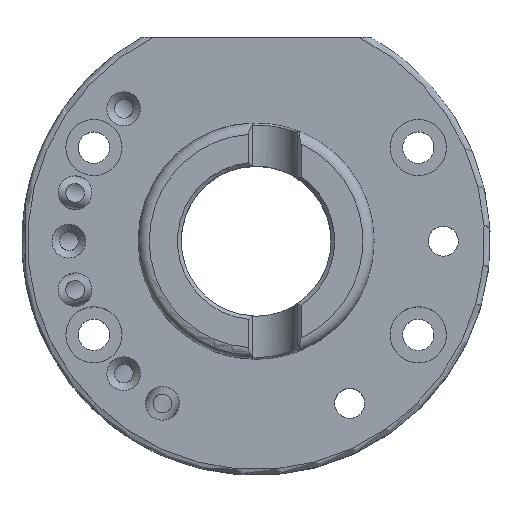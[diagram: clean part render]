
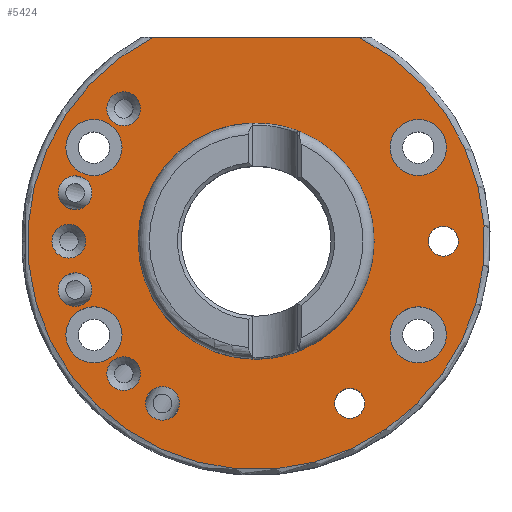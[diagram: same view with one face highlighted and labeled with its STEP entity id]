
A CAD part, top view. The second image highlights one B-rep face of the part: STEP entity #5424.
In plain terms, the highlighted planar face has unit normal (0, 0, 1).
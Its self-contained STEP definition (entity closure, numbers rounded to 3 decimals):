
#124=CIRCLE('',#5625,4.5);
#130=CIRCLE('',#5638,4.5);
#132=CIRCLE('',#5642,4.5);
#145=CIRCLE('',#5668,4.5);
#147=CIRCLE('',#5672,4.5);
#157=CIRCLE('',#5694,4.5);
#160=CIRCLE('',#5702,4.);
#162=CIRCLE('',#5705,4.);
#166=CIRCLE('',#5711,7.5);
#170=CIRCLE('',#5718,7.5);
#174=CIRCLE('',#5725,7.5);
#178=CIRCLE('',#5732,7.5);
#180=CIRCLE('',#5737,61.);
#181=CIRCLE('',#5738,31.5);
#238=FACE_BOUND('',#949,.T.);
#239=FACE_BOUND('',#950,.T.);
#240=FACE_BOUND('',#951,.T.);
#241=FACE_BOUND('',#952,.T.);
#242=FACE_BOUND('',#953,.T.);
#243=FACE_BOUND('',#954,.T.);
#244=FACE_BOUND('',#955,.T.);
#245=FACE_BOUND('',#956,.T.);
#246=FACE_BOUND('',#957,.T.);
#247=FACE_BOUND('',#958,.T.);
#248=FACE_BOUND('',#959,.T.);
#249=FACE_BOUND('',#960,.T.);
#250=FACE_BOUND('',#961,.T.);
#616=FACE_OUTER_BOUND('',#948,.T.);
#948=EDGE_LOOP('',(#4767,#4768));
#949=EDGE_LOOP('',(#4769));
#950=EDGE_LOOP('',(#4770));
#951=EDGE_LOOP('',(#4771));
#952=EDGE_LOOP('',(#4772));
#953=EDGE_LOOP('',(#4773));
#954=EDGE_LOOP('',(#4774));
#955=EDGE_LOOP('',(#4775));
#956=EDGE_LOOP('',(#4776));
#957=EDGE_LOOP('',(#4777));
#958=EDGE_LOOP('',(#4778));
#959=EDGE_LOOP('',(#4779));
#960=EDGE_LOOP('',(#4780));
#961=EDGE_LOOP('',(#4781));
#1640=LINE('',#12027,#2065);
#2065=VECTOR('',#6727,10.);
#2471=VERTEX_POINT('',#10380);
#2492=VERTEX_POINT('',#10945);
#2496=VERTEX_POINT('',#10991);
#2518=VERTEX_POINT('',#11360);
#2522=VERTEX_POINT('',#11406);
#2542=VERTEX_POINT('',#11868);
#2548=VERTEX_POINT('',#11922);
#2550=VERTEX_POINT('',#11928);
#2554=VERTEX_POINT('',#11939);
#2558=VERTEX_POINT('',#11952);
#2562=VERTEX_POINT('',#11965);
#2566=VERTEX_POINT('',#11978);
#2570=VERTEX_POINT('',#12013);
#2571=VERTEX_POINT('',#12026);
#2572=VERTEX_POINT('',#12042);
#3170=EDGE_CURVE('',#2471,#2471,#124,.T.);
#3199=EDGE_CURVE('',#2492,#2492,#130,.T.);
#3205=EDGE_CURVE('',#2496,#2496,#132,.T.);
#3239=EDGE_CURVE('',#2518,#2518,#145,.T.);
#3245=EDGE_CURVE('',#2522,#2522,#147,.T.);
#3275=EDGE_CURVE('',#2542,#2542,#157,.T.);
#3284=EDGE_CURVE('',#2548,#2548,#160,.T.);
#3287=EDGE_CURVE('',#2550,#2550,#162,.T.);
#3292=EDGE_CURVE('',#2554,#2554,#166,.T.);
#3298=EDGE_CURVE('',#2558,#2558,#170,.T.);
#3304=EDGE_CURVE('',#2562,#2562,#174,.T.);
#3310=EDGE_CURVE('',#2566,#2566,#178,.T.);
#3318=EDGE_CURVE('',#2571,#2570,#1640,.T.);
#3320=EDGE_CURVE('',#2571,#2570,#180,.T.);
#3321=EDGE_CURVE('',#2572,#2572,#181,.T.);
#4767=ORIENTED_EDGE('',*,*,#3318,.T.);
#4768=ORIENTED_EDGE('',*,*,#3320,.F.);
#4769=ORIENTED_EDGE('',*,*,#3170,.T.);
#4770=ORIENTED_EDGE('',*,*,#3199,.T.);
#4771=ORIENTED_EDGE('',*,*,#3205,.T.);
#4772=ORIENTED_EDGE('',*,*,#3239,.T.);
#4773=ORIENTED_EDGE('',*,*,#3245,.T.);
#4774=ORIENTED_EDGE('',*,*,#3275,.T.);
#4775=ORIENTED_EDGE('',*,*,#3284,.T.);
#4776=ORIENTED_EDGE('',*,*,#3287,.T.);
#4777=ORIENTED_EDGE('',*,*,#3292,.T.);
#4778=ORIENTED_EDGE('',*,*,#3298,.T.);
#4779=ORIENTED_EDGE('',*,*,#3304,.T.);
#4780=ORIENTED_EDGE('',*,*,#3310,.T.);
#4781=ORIENTED_EDGE('',*,*,#3321,.T.);
#5011=PLANE('',#5736);
#5424=ADVANCED_FACE('',(#616,#238,#239,#240,#241,#242,#243,#244,#245,#246,
#247,#248,#249,#250),#5011,.T.);
#5625=AXIS2_PLACEMENT_3D('',#10381,#6463,#6464);
#5638=AXIS2_PLACEMENT_3D('',#10946,#6495,#6496);
#5642=AXIS2_PLACEMENT_3D('',#10992,#6505,#6506);
#5668=AXIS2_PLACEMENT_3D('',#11361,#6566,#6567);
#5672=AXIS2_PLACEMENT_3D('',#11407,#6576,#6577);
#5694=AXIS2_PLACEMENT_3D('',#11869,#6628,#6629);
#5702=AXIS2_PLACEMENT_3D('',#11923,#6648,#6649);
#5705=AXIS2_PLACEMENT_3D('',#11929,#6655,#6656);
#5711=AXIS2_PLACEMENT_3D('',#11940,#6668,#6669);
#5718=AXIS2_PLACEMENT_3D('',#11953,#6684,#6685);
#5725=AXIS2_PLACEMENT_3D('',#11966,#6700,#6701);
#5732=AXIS2_PLACEMENT_3D('',#11979,#6716,#6717);
#5736=AXIS2_PLACEMENT_3D('',#12040,#6728,#6729);
#5737=AXIS2_PLACEMENT_3D('',#12041,#6730,#6731);
#5738=AXIS2_PLACEMENT_3D('',#12043,#6732,#6733);
#6463=DIRECTION('center_axis',(0.,0.,-1.));
#6464=DIRECTION('ref_axis',(0.5,0.866,0.));
#6495=DIRECTION('center_axis',(0.,0.,-1.));
#6496=DIRECTION('ref_axis',(0.707,0.707,0.));
#6505=DIRECTION('center_axis',(0.,0.,-1.));
#6506=DIRECTION('ref_axis',(0.707,-0.707,0.));
#6566=DIRECTION('center_axis',(0.,0.,-1.));
#6567=DIRECTION('ref_axis',(0.966,0.259,0.));
#6576=DIRECTION('center_axis',(0.,0.,-1.));
#6577=DIRECTION('ref_axis',(0.966,-0.259,0.));
#6628=DIRECTION('center_axis',(0.,0.,-1.));
#6629=DIRECTION('ref_axis',(1.,0.,0.));
#6648=DIRECTION('center_axis',(0.,0.,-1.));
#6649=DIRECTION('ref_axis',(1.,0.,0.));
#6655=DIRECTION('center_axis',(0.,0.,-1.));
#6656=DIRECTION('ref_axis',(1.,0.,0.));
#6668=DIRECTION('center_axis',(0.,0.,-1.));
#6669=DIRECTION('ref_axis',(1.,0.,0.));
#6684=DIRECTION('center_axis',(0.,0.,-1.));
#6685=DIRECTION('ref_axis',(1.,0.,0.));
#6700=DIRECTION('center_axis',(0.,0.,-1.));
#6701=DIRECTION('ref_axis',(1.,0.,0.));
#6716=DIRECTION('center_axis',(0.,0.,-1.));
#6717=DIRECTION('ref_axis',(1.,0.,0.));
#6727=DIRECTION('',(-1.,0.,0.));
#6728=DIRECTION('center_axis',(0.,0.,1.));
#6729=DIRECTION('ref_axis',(1.,0.,0.));
#6730=DIRECTION('center_axis',(0.,0.,-1.));
#6731=DIRECTION('ref_axis',(1.,0.,0.));
#6732=DIRECTION('center_axis',(0.,0.,-1.));
#6733=DIRECTION('ref_axis',(1.,0.,0.));
#10380=CARTESIAN_POINT('',(-27.25,-47.198,28.));
#10381=CARTESIAN_POINT('Origin',(-25.,-43.301,28.));
#10945=CARTESIAN_POINT('',(-38.537,-38.537,28.));
#10946=CARTESIAN_POINT('Origin',(-35.355,-35.355,28.));
#10991=CARTESIAN_POINT('',(-38.537,38.537,28.));
#10992=CARTESIAN_POINT('Origin',(-35.355,35.355,28.));
#11360=CARTESIAN_POINT('',(-52.643,-14.106,28.));
#11361=CARTESIAN_POINT('Origin',(-48.296,-12.941,28.));
#11406=CARTESIAN_POINT('',(-52.643,14.106,28.));
#11407=CARTESIAN_POINT('Origin',(-48.296,12.941,28.));
#11868=CARTESIAN_POINT('',(-54.5,0.,28.));
#11869=CARTESIAN_POINT('Origin',(-50.,0.,28.));
#11922=CARTESIAN_POINT('',(46.,0.,28.));
#11923=CARTESIAN_POINT('Origin',(50.,0.,28.));
#11928=CARTESIAN_POINT('',(21.,-43.301,28.));
#11929=CARTESIAN_POINT('Origin',(25.,-43.301,28.));
#11939=CARTESIAN_POINT('',(-50.801,-25.,28.));
#11940=CARTESIAN_POINT('Origin',(-43.301,-25.,28.));
#11952=CARTESIAN_POINT('',(35.801,-25.,28.));
#11953=CARTESIAN_POINT('Origin',(43.301,-25.,28.));
#11965=CARTESIAN_POINT('',(35.801,25.,28.));
#11966=CARTESIAN_POINT('Origin',(43.301,25.,28.));
#11978=CARTESIAN_POINT('',(-50.801,25.,28.));
#11979=CARTESIAN_POINT('Origin',(-43.301,25.,28.));
#12013=CARTESIAN_POINT('',(-27.4,54.5,28.));
#12026=CARTESIAN_POINT('',(27.4,54.5,28.));
#12027=CARTESIAN_POINT('',(-15.953,54.5,28.));
#12040=CARTESIAN_POINT('Origin',(-62.5,0.,28.));
#12041=CARTESIAN_POINT('Origin',(0.,0.,28.));
#12042=CARTESIAN_POINT('',(31.5,0.,28.));
#12043=CARTESIAN_POINT('Origin',(0.,0.,28.));
